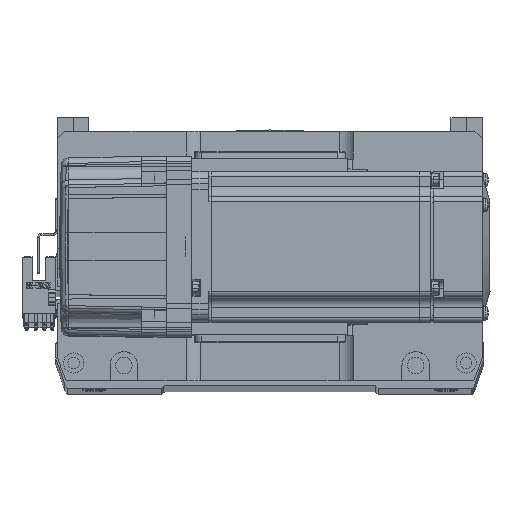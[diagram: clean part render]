
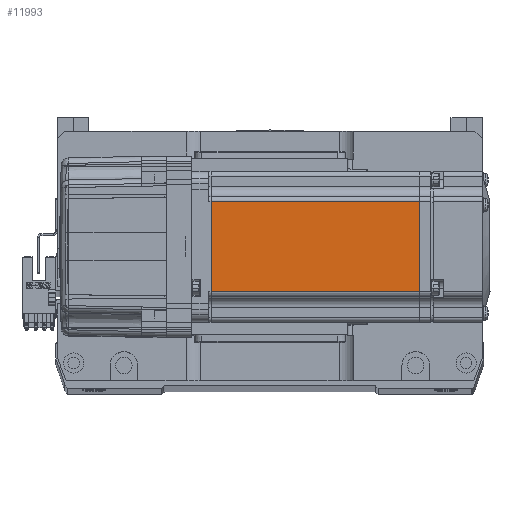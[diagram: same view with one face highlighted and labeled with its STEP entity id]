
A CAD part, top view. The second image highlights one B-rep face of the part: STEP entity #11993.
In plain terms, the highlighted planar face has unit normal (0, 0, 1) as drawn and (0, -1, 0) by its records, which use the part's own axes.
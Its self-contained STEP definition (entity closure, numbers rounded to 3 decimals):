
#235 = PLANE ( 'NONE',  #10822 ) ;
#7252 = EDGE_CURVE ( 'NONE', #32517, #19313, #27206, .T. ) ;
#7846 = EDGE_CURVE ( 'NONE', #19313, #55434, #42897, .T. ) ;
#10822 = AXIS2_PLACEMENT_3D ( 'NONE', #26124, #54717, #56256 ) ;
#11531 = CARTESIAN_POINT ( 'NONE',  ( -7.75, -30., -25. ) ) ;
#11993 = ADVANCED_FACE ( 'NONE', ( #60232 ), #235, .T. ) ;
#13669 = ORIENTED_EDGE ( 'NONE', *, *, #7846, .T. ) ;
#15429 = ORIENTED_EDGE ( 'NONE', *, *, #7252, .T. ) ;
#17546 = LINE ( 'NONE', #34565, #59684 ) ;
#19313 = VERTEX_POINT ( 'NONE', #35031 ) ;
#21764 = VERTEX_POINT ( 'NONE', #58620 ) ;
#26124 = CARTESIAN_POINT ( 'NONE',  ( -6.5, -30., -25. ) ) ;
#27206 = LINE ( 'NONE', #56850, #37388 ) ;
#28148 = VECTOR ( 'NONE', #51654, 1000. ) ;
#29560 = VECTOR ( 'NONE', #53162, 1000. ) ;
#32507 = EDGE_LOOP ( 'NONE', ( #48971, #15429, #13669, #41049 ) ) ;
#32517 = VERTEX_POINT ( 'NONE', #44570 ) ;
#34565 = CARTESIAN_POINT ( 'NONE',  ( -6.5, -30., -18. ) ) ;
#35031 = CARTESIAN_POINT ( 'NONE',  ( -90.45, -30., 18. ) ) ;
#37388 = VECTOR ( 'NONE', #41193, 1000. ) ;
#37921 = EDGE_CURVE ( 'NONE', #55434, #21764, #17546, .T. ) ;
#40136 = EDGE_CURVE ( 'NONE', #21764, #32517, #62516, .T. ) ;
#41049 = ORIENTED_EDGE ( 'NONE', *, *, #37921, .T. ) ;
#41193 = DIRECTION ( 'NONE',  ( -1., 0., 0. ) ) ;
#42897 = LINE ( 'NONE', #59058, #29560 ) ;
#44570 = CARTESIAN_POINT ( 'NONE',  ( -7.75, -30., 18. ) ) ;
#48971 = ORIENTED_EDGE ( 'NONE', *, *, #40136, .T. ) ;
#51347 = CARTESIAN_POINT ( 'NONE',  ( -90.45, -30., -18. ) ) ;
#51654 = DIRECTION ( 'NONE',  ( 0., 0., 1. ) ) ;
#53162 = DIRECTION ( 'NONE',  ( 0., 0., -1. ) ) ;
#54717 = DIRECTION ( 'NONE',  ( 0., -1., 0. ) ) ;
#55434 = VERTEX_POINT ( 'NONE', #51347 ) ;
#56256 = DIRECTION ( 'NONE',  ( 0., 0., -1. ) ) ;
#56850 = CARTESIAN_POINT ( 'NONE',  ( -6.5, -30., 18. ) ) ;
#58620 = CARTESIAN_POINT ( 'NONE',  ( -7.75, -30., -18. ) ) ;
#59058 = CARTESIAN_POINT ( 'NONE',  ( -90.45, -30., -25. ) ) ;
#59684 = VECTOR ( 'NONE', #60298, 1000. ) ;
#60232 = FACE_OUTER_BOUND ( 'NONE', #32507, .T. ) ;
#60298 = DIRECTION ( 'NONE',  ( 1., 0., 0. ) ) ;
#62516 = LINE ( 'NONE', #11531, #28148 ) ;
